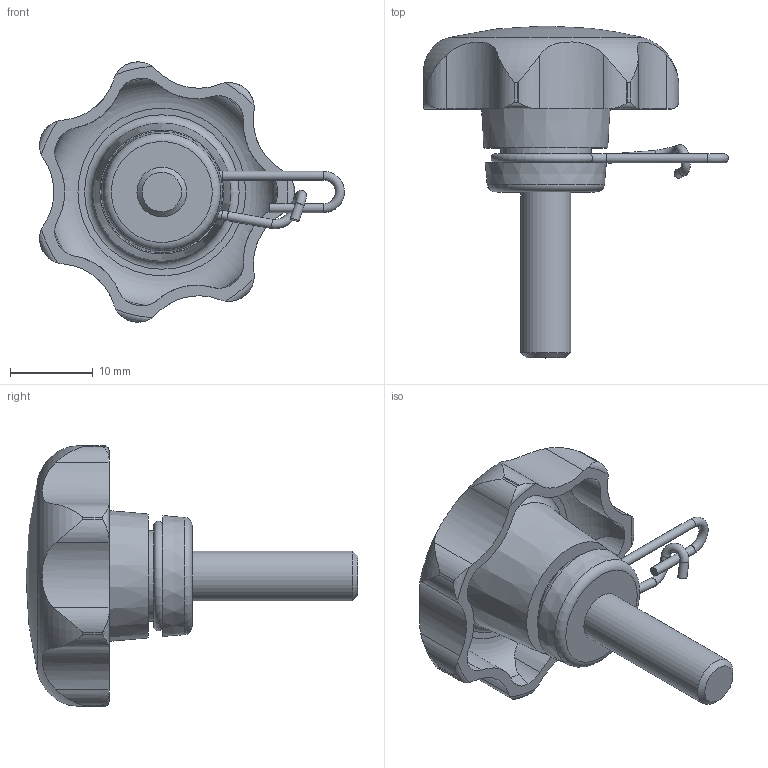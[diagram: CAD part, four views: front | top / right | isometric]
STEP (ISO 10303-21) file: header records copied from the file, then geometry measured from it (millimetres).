
FILE_DESCRIPTION( ( 'STEP AP203' ), '1' );
FILE_NAME( 'C:/Temp/Ganter_Step_05_03_2020/data/2_2/gn_6336_13/gn_6336_13_2/Star knob GN 6336.13-32-M6-20-A.stp', '2020-03-05T12:11:06', ( 'License CC BY-ND 4.0' ), ( 'CADENAS' ), ' ', 'PARTsolutions', ' ' );
FILE_SCHEMA( ( 'CONFIG_CONTROL_DESIGN' ) );
Length unit declared in the file: millimetre
Products named in the file (1): _Star knob GN 6336.13-32-M6-20-A
Bounding box: 36.73 x 40 x 31.36 mm (x, y, z)
Volume: 6257.7 mm3; surface area: 3894.8 mm2
Topology: 1 solids, 1 shells, 99 faces, 272 edges, 177 vertices
Faces by surface type: cylinder 61, torus 18, cone 11, plane 8, sphere 1
Full cylindrical faces by diameter (mm): 1.1 x4, 1.11 x1, 6 x1, 10.9 x1
Entity records: 3909 total; most frequent: CARTESIAN_POINT 1557, ORIENTED_EDGE 482, DIRECTION 461, EDGE_CURVE 241, AXIS2_PLACEMENT_3D 207, VERTEX_POINT 171, EDGE_LOOP 125, FACE_OUTER_BOUND 116
